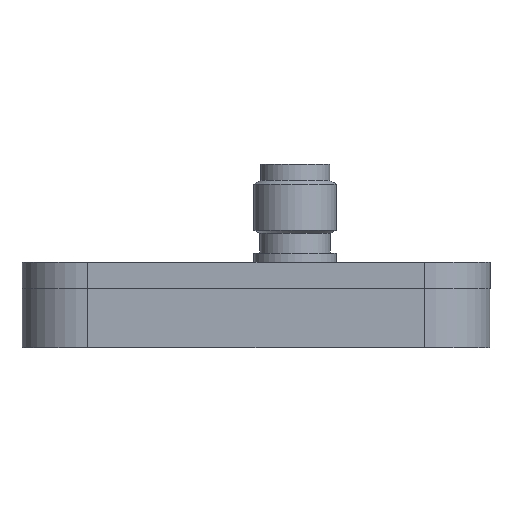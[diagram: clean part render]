
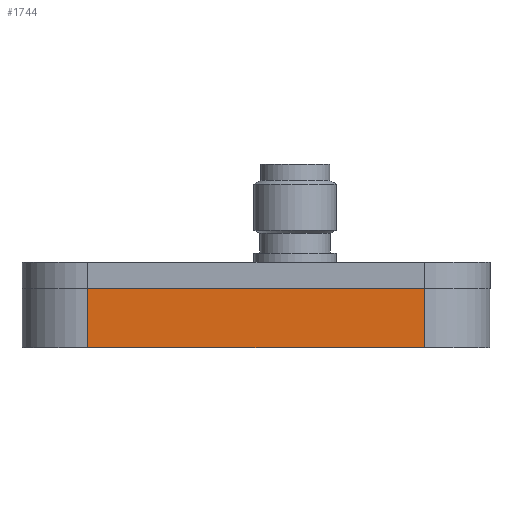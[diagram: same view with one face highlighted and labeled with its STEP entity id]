
A CAD part, left-side view. The second image highlights one B-rep face of the part: STEP entity #1744.
In plain terms, the highlighted planar face has unit normal (-1, 0, 0).
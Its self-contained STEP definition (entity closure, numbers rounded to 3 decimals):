
#764 = DIRECTION ( 'NONE',  ( 0., 1., 0. ) ) ;
#1744 = ADVANCED_FACE ( 'NONE', ( #15985 ), #25328, .T. ) ;
#10732 = CARTESIAN_POINT ( 'NONE',  ( -32.5, 0., 2.25 ) ) ;
#13090 = EDGE_CURVE ( 'NONE', #13303, #19285, #41945, .T. ) ;
#13303 = VERTEX_POINT ( 'NONE', #52003 ) ;
#15985 = FACE_OUTER_BOUND ( 'NONE', #41642, .T. ) ;
#17356 = VECTOR ( 'NONE', #764, 1000. ) ;
#19285 = VERTEX_POINT ( 'NONE', #45739 ) ;
#20387 = ORIENTED_EDGE ( 'NONE', *, *, #57690, .F. ) ;
#20676 = VECTOR ( 'NONE', #33444, 1000. ) ;
#22271 = VERTEX_POINT ( 'NONE', #58952 ) ;
#24244 = CARTESIAN_POINT ( 'NONE',  ( -32.5, -12.8, 2.25 ) ) ;
#25328 = PLANE ( 'NONE',  #27119 ) ;
#27119 = AXIS2_PLACEMENT_3D ( 'NONE', #10732, #43079, #47677 ) ;
#29576 = DIRECTION ( 'NONE',  ( 0., 0., -1. ) ) ;
#29951 = LINE ( 'NONE', #24244, #40782 ) ;
#31550 = EDGE_CURVE ( 'NONE', #19285, #22271, #48901, .T. ) ;
#33444 = DIRECTION ( 'NONE',  ( 0., 1., 0. ) ) ;
#33640 = CARTESIAN_POINT ( 'NONE',  ( -32.5, 12.8, 2.25 ) ) ;
#40782 = VECTOR ( 'NONE', #51641, 1000. ) ;
#41642 = EDGE_LOOP ( 'NONE', ( #20387, #52186, #46660, #46571 ) ) ;
#41945 = LINE ( 'NONE', #42401, #17356 ) ;
#42401 = CARTESIAN_POINT ( 'NONE',  ( -32.5, 0., 2.25 ) ) ;
#43079 = DIRECTION ( 'NONE',  ( -1., 0., 0. ) ) ;
#43787 = LINE ( 'NONE', #47312, #20676 ) ;
#45739 = CARTESIAN_POINT ( 'NONE',  ( -32.5, 12.8, 2.25 ) ) ;
#46571 = ORIENTED_EDGE ( 'NONE', *, *, #31550, .T. ) ;
#46660 = ORIENTED_EDGE ( 'NONE', *, *, #13090, .T. ) ;
#47312 = CARTESIAN_POINT ( 'NONE',  ( -32.5, 0., -2.25 ) ) ;
#47677 = DIRECTION ( 'NONE',  ( 0., -1., 0. ) ) ;
#48901 = LINE ( 'NONE', #33640, #59688 ) ;
#51641 = DIRECTION ( 'NONE',  ( 0., 0., 1. ) ) ;
#52003 = CARTESIAN_POINT ( 'NONE',  ( -32.5, -12.8, 2.25 ) ) ;
#52186 = ORIENTED_EDGE ( 'NONE', *, *, #58327, .T. ) ;
#55086 = CARTESIAN_POINT ( 'NONE',  ( -32.5, -12.8, -2.25 ) ) ;
#55873 = VERTEX_POINT ( 'NONE', #55086 ) ;
#57690 = EDGE_CURVE ( 'NONE', #55873, #22271, #43787, .T. ) ;
#58327 = EDGE_CURVE ( 'NONE', #55873, #13303, #29951, .T. ) ;
#58952 = CARTESIAN_POINT ( 'NONE',  ( -32.5, 12.8, -2.25 ) ) ;
#59688 = VECTOR ( 'NONE', #29576, 1000. ) ;
